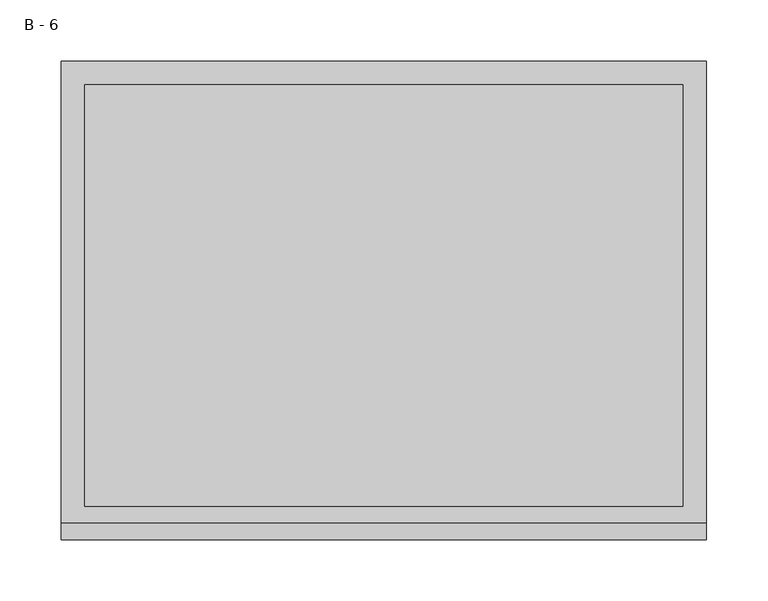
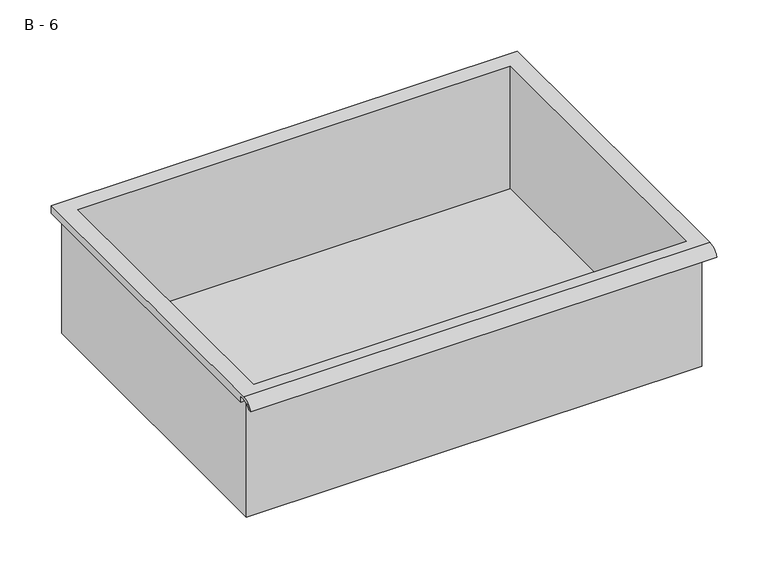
"""IFC4 building model written with IfcOpenShell, lengths in millimetres: furniture geometry, HermanMiller_CoStruc_CO207_Drawer : B - 6."""

from ifc_helpers import new_model, si_unit, frame, origin, place, context, project, spatial, polyline, circle_curve, source, transform, mapped, element, save
from ifc_brep_helpers import plane_surface, cylinder_surface, revolved_surface, advanced_brep


def b_6_5c61f839(model_context):
    return source(origin(), model_context, "Body", "AdvancedBrep", [
        advanced_brep(
        [(-257.1076517, -176.2125, 1155.7), (257.2423483, -176.2125, 1155.7), (257.2423483, -176.2125, 1295.4), (263.5923483, -176.2125, 1295.4), (263.5923483, -176.2125, 1301.7071341), (-263.4576517, -176.2125, 1301.7071341), (-263.4576517, -176.2125, 1295.4), (-257.1076517, -176.2125, 1295.4), (257.2423483, 185.7375, 1155.7), (-257.1076517, 185.7375, 1155.7), (-257.1076517, 185.7375, 1295.4), (257.2423483, 185.7375, 1295.4), (263.5923483, -181.6070544, 1304.925), (263.5923483, 195.2625, 1304.925), (-263.4576517, 195.2625, 1304.925), (-263.4576517, -181.6070544, 1304.925), (244.5423483, -168.275, 1304.925), (-244.4076517, -168.275, 1304.925), (-244.4076517, 176.2125, 1304.925), (244.5423483, 176.2125, 1304.925), (263.5923483, -195.2625, 1295.4), (263.5923483, -191.8280601, 1295.4), (263.5923483, -180.4714815, 1301.7071341), (263.5923483, 195.2625, 1295.4), (-263.4576517, 195.2625, 1295.4), (-263.4576517, -180.4714815, 1301.7071341), (-263.4576517, -191.8280601, 1295.4), (-263.4576517, -195.2625, 1295.4), (-244.4076517, -168.275, 1158.7261719), (244.5423483, -168.275, 1158.7261719), (244.5423483, 176.2125, 1158.7261719), (-244.4076517, 176.2125, 1158.7261719)],
        [
            (0, 1),
            (1, 2),
            (2, 3),
            (3, 4),
            (4, 5),
            (5, 6),
            (6, 7),
            (7, 0),
            (8, 9),
            (9, 10),
            (10, 11),
            (11, 8),
            (0, 9),
            (8, 1),
            (11, 2),
            (12, 13),
            (13, 14),
            (14, 15),
            (15, 12),
            (16, 17),
            (17, 18),
            (18, 19),
            (19, 16),
            (7, 10),
            (12, 20, circle_curve(frame((263.5923483, -181.6070544, 1290.3739859), z_axis=(1.0, 0.0, 0.0), x_axis=(0.0, 1.0, 0.0)), 14.5510141)),
            (20, 21),
            (21, 22, circle_curve(frame((263.5923483, -181.6070544, 1290.3739859), z_axis=(-1.0, 0.0, 0.0), x_axis=(0.0, 1.0, 0.0)), 11.3898979)),
            (22, 4),
            (3, 23),
            (23, 13),
            (14, 24),
            (24, 6),
            (5, 25),
            (25, 26, circle_curve(frame((-263.4576517, -181.6070544, 1290.3739859), z_axis=(1.0, 0.0, 0.0), x_axis=(0.0, 1.0, 0.0)), 11.3898979)),
            (26, 27),
            (27, 15, circle_curve(frame((-263.4576517, -181.6070544, 1290.3739859), z_axis=(-1.0, 0.0, 0.0), x_axis=(0.0, 1.0, 0.0)), 14.5510141)),
            (27, 20),
            (26, 21),
            (25, 22),
            (24, 23),
            (28, 29),
            (29, 30),
            (30, 31),
            (31, 28),
            (28, 17),
            (16, 29),
            (19, 30),
            (18, 31),
        ],
        [
            plane_surface(frame((257.2423483, -176.2125, 1155.7), z_axis=(0.0, -1.0, 0.0), x_axis=(1.0, 0.0, 0.0))),
            plane_surface(frame((257.2423483, 185.7375, 1155.7), z_axis=(0.0, 1.0, 0.0), x_axis=(-1.0, 0.0, 0.0))),
            plane_surface(frame((-257.1076517, -176.2125, 1155.7), z_axis=(0.0, 0.0, -1.0), x_axis=(0.0, 1.0, 0.0))),
            plane_surface(frame((257.2423483, -176.2125, 1155.7), z_axis=(1.0, 0.0, 0.0), x_axis=(0.0, 1.0, 0.0))),
            plane_surface(frame((257.2423483, -176.2125, 1304.925), z_axis=(0.0, 0.0, 1.0), x_axis=(0.0, 1.0, 0.0))),
            plane_surface(frame((-257.1076517, -176.2125, 1304.925), z_axis=(-1.0, 0.0, 0.0), x_axis=(0.0, 1.0, 0.0))),
            plane_surface(frame((263.5923483, 195.2625, 1304.925), z_axis=(1.0, 0.0, 0.0), x_axis=(0.0, -1.0, 0.0))),
            plane_surface(frame((-263.4576517, 195.2625, 1304.925), z_axis=(-1.0, 0.0, 0.0), x_axis=(0.0, 1.0, 0.0))),
            cylinder_surface(frame((-263.4576517, -181.6070544, 1290.3739859), z_axis=(1.0, 0.0, 0.0), x_axis=(0.0, 1.0, 0.0)), 14.5510141),
            plane_surface(frame((263.5923483, -195.2625, 1295.4), z_axis=(0.0, -7.330645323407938e-12, -1.0), x_axis=(-1.0, 0.0, 0.0))),
            revolved_surface(polyline([(-263.4576517, -170.21715650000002, 1290.3739859), (263.59234829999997, -170.21715650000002, 1290.3739859)]), (-263.4576517, -181.6070544, 1290.3739859), (-1.0, 0.0, 0.0)),
            plane_surface(frame((263.5923483, -180.4714815, 1301.7071341), z_axis=(0.0, -1.805210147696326e-11, -1.0), x_axis=(-1.0, 0.0, 0.0))),
            plane_surface(frame((263.5923483, -176.2125, 1295.4), z_axis=(0.0, 0.0, -1.0), x_axis=(-1.0, 0.0, 0.0))),
            plane_surface(frame((263.5923483, 195.2625, 1295.4), z_axis=(0.0, 1.0, 0.0), x_axis=(-1.0, 0.0, 0.0))),
            plane_surface(frame((244.5423483, -168.275, 1158.7261719), z_axis=(0.0, 0.0, 1.0), x_axis=(-1.0, 0.0, 0.0))),
            plane_surface(frame((-244.4076517, -168.275, 1304.925), z_axis=(0.0, 1.0, 0.0), x_axis=(0.0, 0.0, -1.0))),
            plane_surface(frame((244.5423483, -168.275, 1304.925), z_axis=(-1.0, 0.0, 0.0), x_axis=(0.0, 0.0, -1.0))),
            plane_surface(frame((244.5423483, 176.2125, 1304.925), z_axis=(0.0, -1.0, 0.0), x_axis=(0.0, 0.0, -1.0))),
            plane_surface(frame((-244.4076517, 176.2125, 1304.925), z_axis=(1.0, 0.0, 0.0), x_axis=(0.0, 0.0, -1.0))),
        ],
        [
            (0, [[1, 2, 3, 4, 5, 6, 7, 8]]),
            (1, [[9, 10, 11, 12]]),
            (2, [[-1, 13, -9, 14]]),
            (3, [[-14, -12, 15, -2]]),
            (4, [[16, 17, 18, 19], [20, 21, 22, 23]]),
            (5, [[-13, -8, 24, -10]]),
            (6, [[-16, 25, 26, 27, 28, -4, 29, 30]]),
            (7, [[31, 32, -6, 33, 34, 35, 36, -18]]),
            (8, [[-25, -19, -36, 37]]),
            (9, [[-26, -37, -35, 38]]),
            (10, [[-27, -38, -34, 39]]),
            (11, [[-28, -39, -33, -5]]),
            (12, [[-29, -3, -15, -11, -24, -7, -32, 40]]),
            (13, [[-30, -40, -31, -17]]),
            (14, [[41, 42, 43, 44]]),
            (15, [[-41, 45, -20, 46]]),
            (16, [[-42, -46, -23, 47]]),
            (17, [[-43, -47, -22, 48]]),
            (18, [[-44, -48, -21, -45]]),
        ],
    ),
    ])


if __name__ == "__main__":
    model = new_model("IFC4")
    model_context = context("Model", 3, world=origin())
    ifc_project = project(units=[si_unit("LENGTHUNIT", "METRE", prefix="MILLI")], contexts=[model_context])
    site = spatial("IfcSite", under=ifc_project)
    building = spatial("IfcBuilding", under=site)
    placement = place(None, origin())
    b_6_shape = b_6_5c61f839(model_context)
    element("IfcFurniture", 1, ObjectType="HermanMiller_CoStruc_CO207_Drawer : B - 6", at=placement, inside=building, context=model_context, shape_type="MappedRepresentation", body=[
        mapped(b_6_shape, transform((0.0, 0.0, 0.0), x_axis=(1.0, 0.0, 0.0), y_axis=(0.0, 1.0, 0.0), z_axis=(0.0, 0.0, 1.0))),
    ])
    save(model, "model.ifc")
